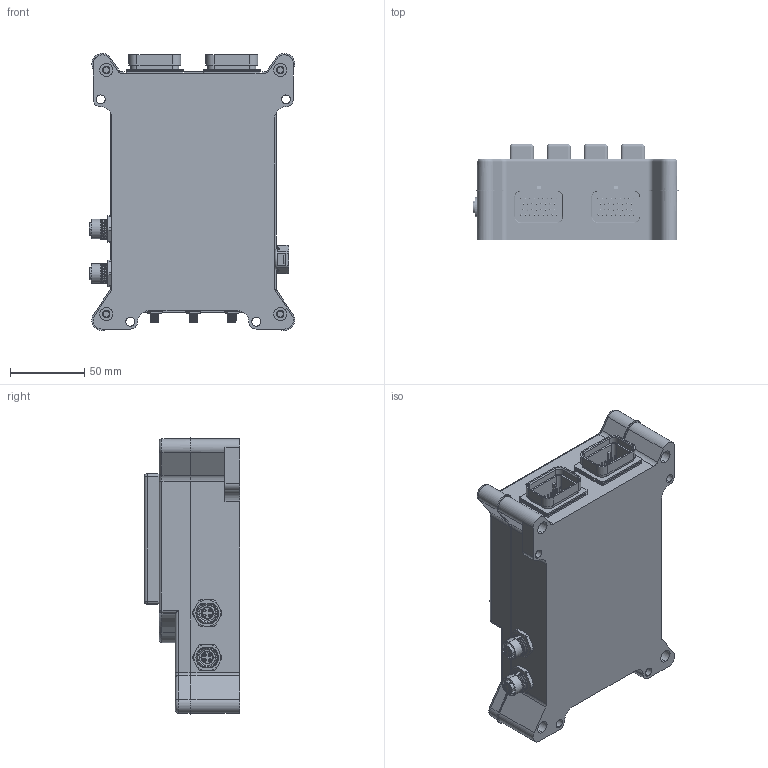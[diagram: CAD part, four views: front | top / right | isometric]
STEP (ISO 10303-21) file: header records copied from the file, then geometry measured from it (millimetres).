
FILE_DESCRIPTION (( 'STEP AP214' ), '1' );
FILE_NAME ('GOcontroll_Moduline_Mini_I.STEP', '2025-02-06T11:13:34', ( '' ), ( '' ), 'SwSTEP 2.0', 'SolidWorks 2021', '' );
FILE_SCHEMA (( 'AUTOMOTIVE_DESIGN' ));
Length unit declared in the file: millimetre
Products named in the file (15): JDAE12PA(2)1; MOD_MINI_BOTTOM_V101_solid; MOD_MINI_GASKET_V100; MOD_MINI_TOP_V101_solid; 6437288-2; GOcontroll_Moduline_Mini_I; JDAE12PA_SW; SMA; Light_tube; 6437288-1; MOD_MINI; JDAE12PA(2)2; T4131412041-000; generic_M2_without_antenna_3D-model.stp; T4131512041-000
Assembly tree (19 placements, depth 3):
  GOcontroll_Moduline_Mini_I
    MOD_MINI_BOTTOM_V101_solid
    MOD_MINI
      6437288-1
      6437288-2
    generic_M2_without_antenna_3D-model.stp
    Light_tube  x4
    SMA  x3
    MOD_MINI_GASKET_V100
    JDAE12PA_SW
      JDAE12PA(2)1
      JDAE12PA(2)2
    T4131512041-000
    T4131412041-000
    MOD_MINI_TOP_V101_solid
Bounding box: 138.68 x 64.5 x 186.98 mm (x, y, z)
Volume: 1008676.5 mm3; surface area: 174757.3 mm2
Topology: 25 solids, 25 shells, 3413 faces, 8473 edges, 5361 vertices
Faces by surface type: cylinder 1463, plane 1214, cone 336, torus 225, bspline 153, sphere 22
Entity records: 124942 total; most frequent: CARTESIAN_POINT 40593, DIRECTION 16435, ORIENTED_EDGE 15506, EDGE_CURVE 7753, AXIS2_PLACEMENT_3D 6270, VERTEX_POINT 4914, VECTOR 3895, LINE 3895
